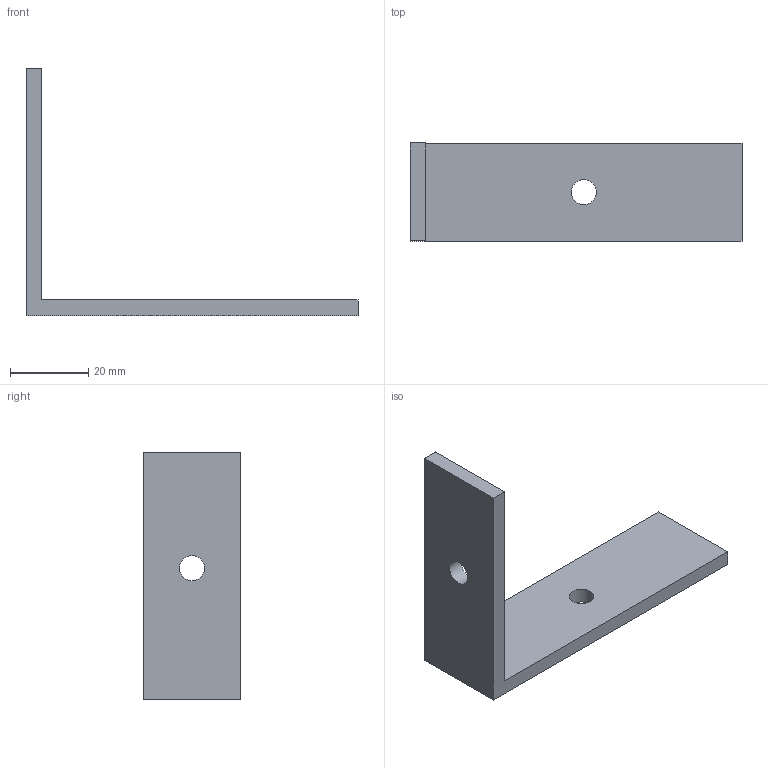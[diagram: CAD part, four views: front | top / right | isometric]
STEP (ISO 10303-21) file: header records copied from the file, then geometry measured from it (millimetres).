
FILE_DESCRIPTION(('Mechanical CAD reference from nasji.com'),'2;1');
FILE_NAME('NASJI.step','',(''),(''),'','NASJI distribution','');
FILE_SCHEMA(('AUTOMOTIVE_DESIGN { 1 0 10303 214 1 1 1 1 }'));
Length unit declared in the file: millimetre
Products named in the file (1): Open CASCADE STEP translator 7.8 183
Bounding box: 85 x 25 x 63.3 mm (x, y, z)
Volume: 14172.6 mm3; surface area: 8601.6 mm2
Topology: 1 solids, 1 shells, 10 faces, 24 edges, 16 vertices
Faces by surface type: plane 8, cylinder 2
Full cylindrical faces by diameter (mm): 6.4 x2
Entity records: 626 total; most frequent: CARTESIAN_POINT 113, DIRECTION 94, LINE 62, VECTOR 62, ORIENTED_EDGE 48, PCURVE 48, DEFINITIONAL_REPRESENTATION 48, EDGE_CURVE 24
